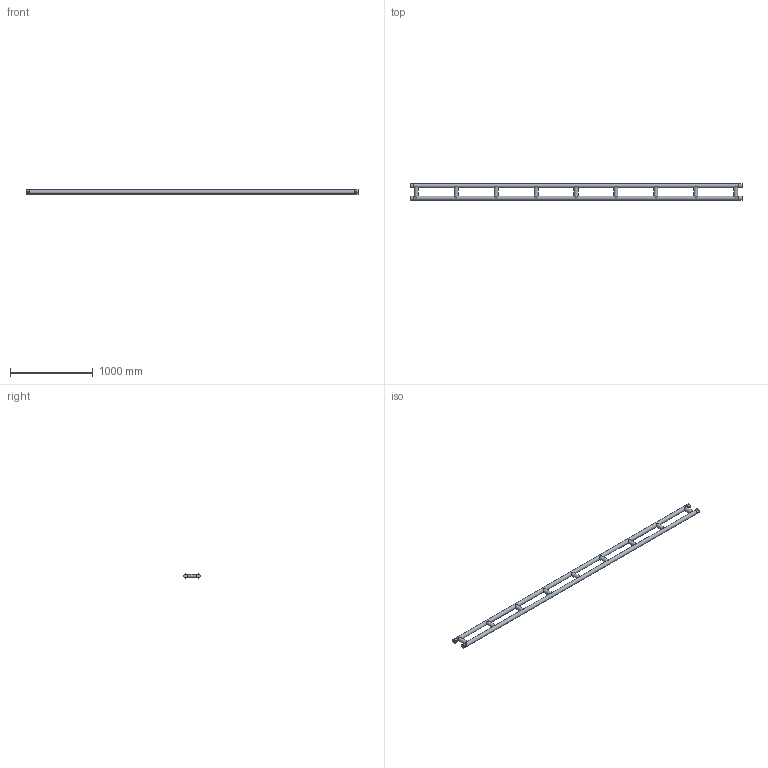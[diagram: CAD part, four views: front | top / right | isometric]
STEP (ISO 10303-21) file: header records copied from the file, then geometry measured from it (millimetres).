
FILE_DESCRIPTION(/* description */ (''),/* implementation_level */ '2;1');
FILE_NAME(/* name */ 'C:\Users\adrian.toca\Desktop\111050571.stp',/* time_stamp */ '2016-09-30T14:24:01+03:00',/* author */ ('adrian.toca'),/* organization */ (''),/* preprocessor_version */ 'ST-DEVELOPER v15.6',/* originating_system */ 'Autodesk Inventor 2015',/* authorisation */ '');
FILE_SCHEMA (('AUTOMOTIVE_DESIGN { 1 0 10303 214 3 1 1 }'));
Length unit declared in the file: millimetre
Products named in the file (1): 260031048
Bounding box: 4000 x 198.3 x 48.3 mm (x, y, z)
Volume: 16431241.1 mm3; surface area: 1351948.6 mm2
Topology: 1 solids, 1 shells, 67 faces, 239 edges, 158 vertices
Faces by surface type: plane 44, cylinder 19, cone 4
Full cylindrical faces by diameter (mm): 10 x4, 48.3 x15
Entity records: 2300 total; most frequent: CARTESIAN_POINT 592, DIRECTION 348, ORIENTED_EDGE 280, AXIS2_PLACEMENT_3D 156, EDGE_CURVE 140, EDGE_LOOP 120, VERTEX_POINT 104, STYLED_ITEM 68
